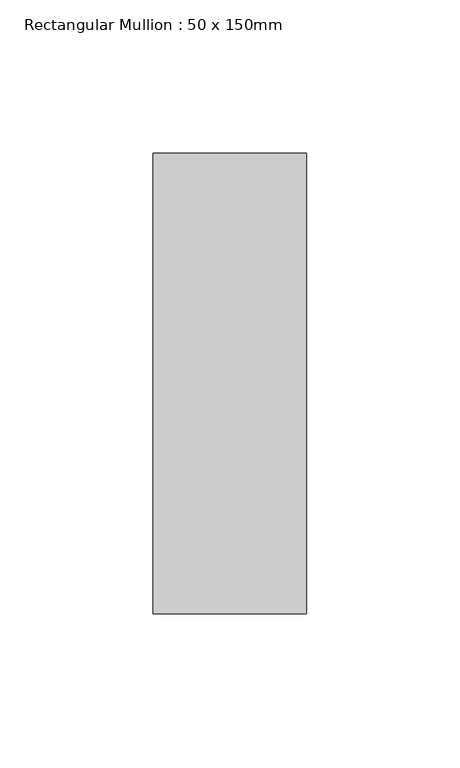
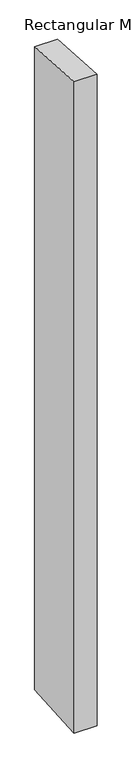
"""IFC4 building model written with IfcOpenShell, lengths in millimetres: member geometry, Rectangular Mullion : 50 x 150mm."""

from ifc_helpers import new_model, si_unit, origin, place, context, project, spatial, faceted_brep, source, transform, mapped, element, save


def rectangular_mullion_50_x_150mm_eddbecf3(model_context):
    return source(origin(), model_context, "Body", "Brep", [
        faceted_brep([(-50.0, 75.0, -4.8935326), (0.0, 75.0, -4.7420531), (0.0, 75.0, -1495.2579469), (-50.0, 75.0, -1495.1064674), (-50.0, -75.0, 4.5905735), (-50.0, -75.0, -1504.5905735), (0.0, -75.0, 4.7420531), (0.0, -75.0, -1504.7420531)], [[[0, 1, 2, 3]], [[4, 0, 3, 5]], [[6, 4, 5, 7]], [[1, 6, 7, 2]], [[1, 0, 4, 6]], [[2, 7, 5, 3]]]),
    ])


if __name__ == "__main__":
    model = new_model("IFC4")
    model_context = context("Model", 3, world=origin())
    ifc_project = project(units=[si_unit("LENGTHUNIT", "METRE", prefix="MILLI")], contexts=[model_context])
    site = spatial("IfcSite", under=ifc_project)
    building = spatial("IfcBuilding", under=site)
    placement = place(None, origin())
    rectangular_mullion_50_x_150mm_shape = rectangular_mullion_50_x_150mm_eddbecf3(model_context)
    element("IfcMember", 1, ObjectType="Rectangular Mullion : 50 x 150mm", at=placement, inside=building, context=model_context, shape_type="MappedRepresentation", body=[
        mapped(rectangular_mullion_50_x_150mm_shape, transform((0.0, 0.0, 0.0), x_axis=(1.0, 0.0, 0.0), y_axis=(0.0, 1.0, 0.0), z_axis=(0.0, 0.0, 1.0))),
    ])
    save(model, "model.ifc")
